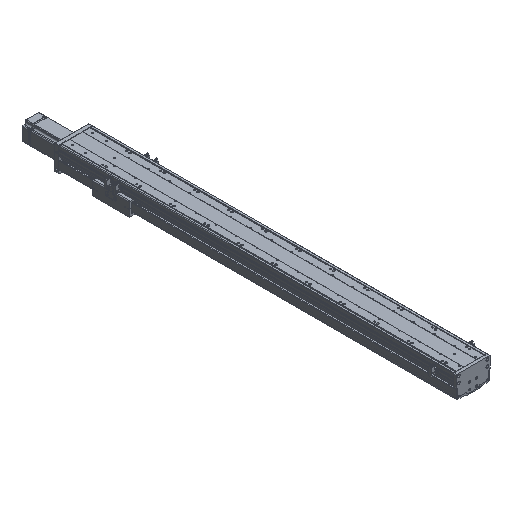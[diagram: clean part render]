
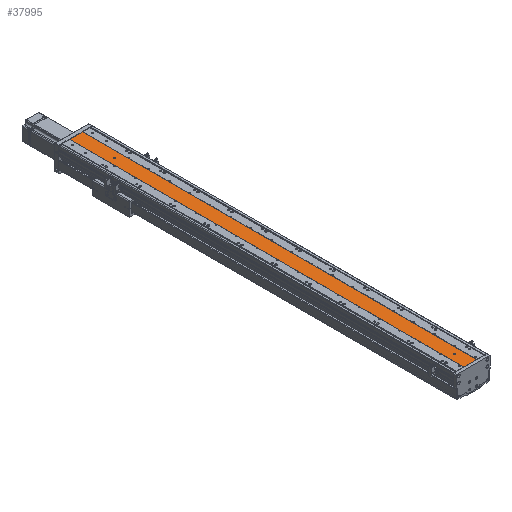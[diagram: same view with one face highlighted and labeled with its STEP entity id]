
A CAD part, isometric view. The second image highlights one B-rep face of the part: STEP entity #37995.
In plain terms, the highlighted planar face has unit normal (0, 0, 1).
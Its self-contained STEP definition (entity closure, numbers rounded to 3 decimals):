
#1502 = FACE_BOUND ( 'NONE', #3159, .T. ) ;
#2087 = FACE_BOUND ( 'NONE', #42219, .T. ) ;
#2268 = ORIENTED_EDGE ( 'NONE', *, *, #6737, .T. ) ;
#2433 = DIRECTION ( 'NONE',  ( 0., 0., -1. ) ) ;
#2601 = PLANE ( 'NONE',  #23697 ) ;
#2893 = CARTESIAN_POINT ( 'NONE',  ( -10623.579, 47., -17040.86 ) ) ;
#3159 = EDGE_LOOP ( 'NONE', ( #48346, #12105 ) ) ;
#3660 = DIRECTION ( 'NONE',  ( -1., 0., 0. ) ) ;
#6737 = EDGE_CURVE ( 'NONE', #33506, #40167, #32539, .T. ) ;
#6776 = EDGE_CURVE ( 'NONE', #29153, #39636, #25884, .T. ) ;
#7140 = VECTOR ( 'NONE', #47877, 1000. ) ;
#8217 = LINE ( 'NONE', #37365, #43514 ) ;
#8322 = CARTESIAN_POINT ( 'NONE',  ( -10645.079, 1162., -17040.86 ) ) ;
#8368 = LINE ( 'NONE', #16585, #7140 ) ;
#9772 = LINE ( 'NONE', #29917, #13417 ) ;
#11589 = CARTESIAN_POINT ( 'NONE',  ( -10645.079, 0., -17040.86 ) ) ;
#11726 = EDGE_CURVE ( 'NONE', #39636, #29153, #40756, .T. ) ;
#12105 = ORIENTED_EDGE ( 'NONE', *, *, #44871, .T. ) ;
#12561 = AXIS2_PLACEMENT_3D ( 'NONE', #16850, #20733, #47973 ) ;
#12991 = CARTESIAN_POINT ( 'NONE',  ( -10607.079, 1162., -17040.86 ) ) ;
#13417 = VECTOR ( 'NONE', #45541, 1000. ) ;
#13680 = EDGE_CURVE ( 'NONE', #19673, #40167, #8368, .T. ) ;
#14793 = AXIS2_PLACEMENT_3D ( 'NONE', #15023, #15192, #30822 ) ;
#15023 = CARTESIAN_POINT ( 'NONE',  ( -10626.079, 47., -17040.86 ) ) ;
#15192 = DIRECTION ( 'NONE',  ( 0., 0., -1. ) ) ;
#15359 = DIRECTION ( 'NONE',  ( 1., 0., 0. ) ) ;
#15478 = VERTEX_POINT ( 'NONE', #25233 ) ;
#15833 = AXIS2_PLACEMENT_3D ( 'NONE', #18986, #23059, #3660 ) ;
#16470 = ORIENTED_EDGE ( 'NONE', *, *, #33343, .F. ) ;
#16585 = CARTESIAN_POINT ( 'NONE',  ( -10607.079, 1162., -17040.86 ) ) ;
#16707 = CARTESIAN_POINT ( 'NONE',  ( -10626.079, 47., -17040.86 ) ) ;
#16850 = CARTESIAN_POINT ( 'NONE',  ( -10626.079, 1047., -17040.86 ) ) ;
#16958 = AXIS2_PLACEMENT_3D ( 'NONE', #16707, #44080, #32502 ) ;
#17793 = CARTESIAN_POINT ( 'NONE',  ( -10645.079, 1162., -17040.86 ) ) ;
#18986 = CARTESIAN_POINT ( 'NONE',  ( -10626.079, 1047., -17040.86 ) ) ;
#19673 = VERTEX_POINT ( 'NONE', #12991 ) ;
#20601 = VERTEX_POINT ( 'NONE', #8322 ) ;
#20733 = DIRECTION ( 'NONE',  ( 0., 0., -1. ) ) ;
#20987 = CIRCLE ( 'NONE', #15833, 2.5 ) ;
#21044 = CARTESIAN_POINT ( 'NONE',  ( -10645.079, 0., -17040.86 ) ) ;
#21282 = CARTESIAN_POINT ( 'NONE',  ( -10628.579, 47., -17040.86 ) ) ;
#21831 = ORIENTED_EDGE ( 'NONE', *, *, #13680, .F. ) ;
#21868 = ORIENTED_EDGE ( 'NONE', *, *, #11726, .T. ) ;
#22329 = DIRECTION ( 'NONE',  ( -1., 0., 0. ) ) ;
#23059 = DIRECTION ( 'NONE',  ( 0., 0., -1. ) ) ;
#23697 = AXIS2_PLACEMENT_3D ( 'NONE', #17793, #2433, #22329 ) ;
#25233 = CARTESIAN_POINT ( 'NONE',  ( -10628.579, 1047., -17040.86 ) ) ;
#25396 = EDGE_CURVE ( 'NONE', #31371, #15478, #30497, .T. ) ;
#25884 = CIRCLE ( 'NONE', #14793, 2.5 ) ;
#26315 = EDGE_LOOP ( 'NONE', ( #2268, #21831, #16470, #44229 ) ) ;
#28772 = CARTESIAN_POINT ( 'NONE',  ( -10607.079, 0., -17040.86 ) ) ;
#29153 = VERTEX_POINT ( 'NONE', #2893 ) ;
#29917 = CARTESIAN_POINT ( 'NONE',  ( -10645.079, 1162., -17040.86 ) ) ;
#30497 = CIRCLE ( 'NONE', #12561, 2.5 ) ;
#30822 = DIRECTION ( 'NONE',  ( -1., 0., 0. ) ) ;
#31371 = VERTEX_POINT ( 'NONE', #43076 ) ;
#32502 = DIRECTION ( 'NONE',  ( -1., 0., 0. ) ) ;
#32539 = LINE ( 'NONE', #11589, #36217 ) ;
#33343 = EDGE_CURVE ( 'NONE', #20601, #19673, #9772, .T. ) ;
#33506 = VERTEX_POINT ( 'NONE', #21044 ) ;
#35603 = FACE_OUTER_BOUND ( 'NONE', #26315, .T. ) ;
#36217 = VECTOR ( 'NONE', #15359, 1000. ) ;
#37365 = CARTESIAN_POINT ( 'NONE',  ( -10645.079, 1162., -17040.86 ) ) ;
#37905 = EDGE_CURVE ( 'NONE', #20601, #33506, #8217, .T. ) ;
#37995 = ADVANCED_FACE ( 'NONE', ( #1502, #2087, #35603 ), #2601, .F. ) ;
#39636 = VERTEX_POINT ( 'NONE', #21282 ) ;
#40167 = VERTEX_POINT ( 'NONE', #28772 ) ;
#40756 = CIRCLE ( 'NONE', #16958, 2.5 ) ;
#40983 = ORIENTED_EDGE ( 'NONE', *, *, #6776, .T. ) ;
#42219 = EDGE_LOOP ( 'NONE', ( #40983, #21868 ) ) ;
#43076 = CARTESIAN_POINT ( 'NONE',  ( -10623.579, 1047., -17040.86 ) ) ;
#43514 = VECTOR ( 'NONE', #48899, 1000. ) ;
#44080 = DIRECTION ( 'NONE',  ( 0., 0., -1. ) ) ;
#44229 = ORIENTED_EDGE ( 'NONE', *, *, #37905, .T. ) ;
#44871 = EDGE_CURVE ( 'NONE', #15478, #31371, #20987, .T. ) ;
#45541 = DIRECTION ( 'NONE',  ( 1., 0., 0. ) ) ;
#47877 = DIRECTION ( 'NONE',  ( 0., -1., 0. ) ) ;
#47973 = DIRECTION ( 'NONE',  ( -1., 0., 0. ) ) ;
#48346 = ORIENTED_EDGE ( 'NONE', *, *, #25396, .T. ) ;
#48899 = DIRECTION ( 'NONE',  ( 0., -1., 0. ) ) ;
